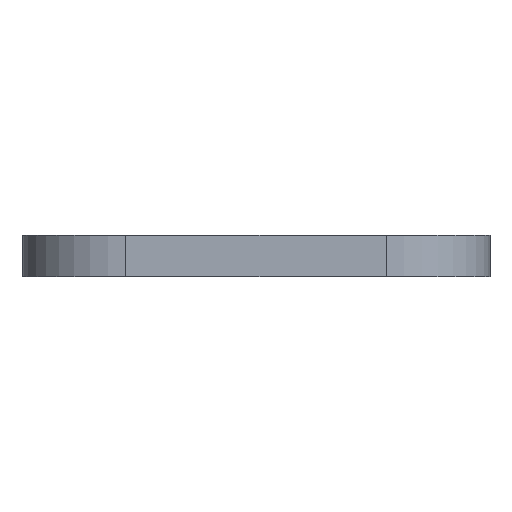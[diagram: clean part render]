
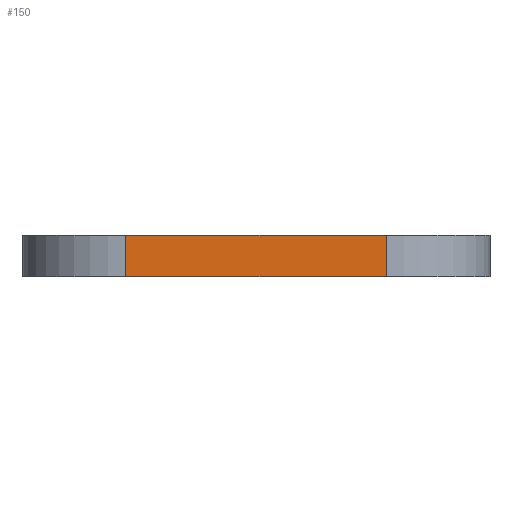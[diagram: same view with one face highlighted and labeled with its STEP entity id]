
A CAD part, front view. The second image highlights one B-rep face of the part: STEP entity #150.
In plain terms, the highlighted planar face has unit normal (0, -1, 0).
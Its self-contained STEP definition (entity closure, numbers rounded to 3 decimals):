
#36 = EDGE_CURVE ( 'NONE', #71, #41, #289, .T. ) ;
#41 = VERTEX_POINT ( 'NONE', #285 ) ;
#71 = VERTEX_POINT ( 'NONE', #353 ) ;
#107 = VERTEX_POINT ( 'NONE', #419 ) ;
#111 = EDGE_CURVE ( 'NONE', #113, #107, #459, .T. ) ;
#113 = VERTEX_POINT ( 'NONE', #466 ) ;
#120 = ORIENTED_EDGE ( 'NONE', *, *, #122, .T. ) ;
#122 = EDGE_CURVE ( 'NONE', #113, #71, #455, .T. ) ;
#125 = ORIENTED_EDGE ( 'NONE', *, *, #36, .T. ) ;
#126 = EDGE_CURVE ( 'NONE', #107, #41, #434, .T. ) ;
#149 = ORIENTED_EDGE ( 'NONE', *, *, #111, .F. ) ;
#150 = ADVANCED_FACE ( 'NONE', ( #780 ), #787, .F. ) ;
#157 = ORIENTED_EDGE ( 'NONE', *, *, #126, .F. ) ;
#161 = EDGE_LOOP ( 'NONE', ( #125, #157, #149, #120 ) ) ;
#285 = CARTESIAN_POINT ( 'NONE',  ( 12.5, 0., 0. ) ) ;
#288 = CARTESIAN_POINT ( 'NONE',  ( -12.5, 0., 0. ) ) ;
#289 = LINE ( 'NONE', #288, #338 ) ;
#337 = DIRECTION ( 'NONE',  ( 1., 0., 0. ) ) ;
#338 = VECTOR ( 'NONE', #337, 1000. ) ;
#353 = CARTESIAN_POINT ( 'NONE',  ( -12.5, 0., 0. ) ) ;
#401 = DIRECTION ( 'NONE',  ( 0., 0., -1. ) ) ;
#419 = CARTESIAN_POINT ( 'NONE',  ( 12.5, 0., 4. ) ) ;
#433 = VECTOR ( 'NONE', #401, 1000. ) ;
#434 = LINE ( 'NONE', #438, #433 ) ;
#438 = CARTESIAN_POINT ( 'NONE',  ( 12.5, 0., 4. ) ) ;
#446 = DIRECTION ( 'NONE',  ( 0., 0., -1. ) ) ;
#447 = VECTOR ( 'NONE', #446, 1000. ) ;
#455 = LINE ( 'NONE', #456, #447 ) ;
#456 = CARTESIAN_POINT ( 'NONE',  ( -12.5, 0., 4. ) ) ;
#457 = DIRECTION ( 'NONE',  ( 1., 0., 0. ) ) ;
#458 = VECTOR ( 'NONE', #457, 1000. ) ;
#459 = LINE ( 'NONE', #465, #458 ) ;
#465 = CARTESIAN_POINT ( 'NONE',  ( -12.5, 0., 4. ) ) ;
#466 = CARTESIAN_POINT ( 'NONE',  ( -12.5, 0., 4. ) ) ;
#779 = DIRECTION ( 'NONE',  ( -1., 0., 0. ) ) ;
#780 = FACE_OUTER_BOUND ( 'NONE', #161, .T. ) ;
#786 = DIRECTION ( 'NONE',  ( 0., 1., 0. ) ) ;
#787 = PLANE ( 'NONE',  #789 ) ;
#788 = CARTESIAN_POINT ( 'NONE',  ( -12.5, 0., 4. ) ) ;
#789 = AXIS2_PLACEMENT_3D ( 'NONE', #788, #786, #779 ) ;
